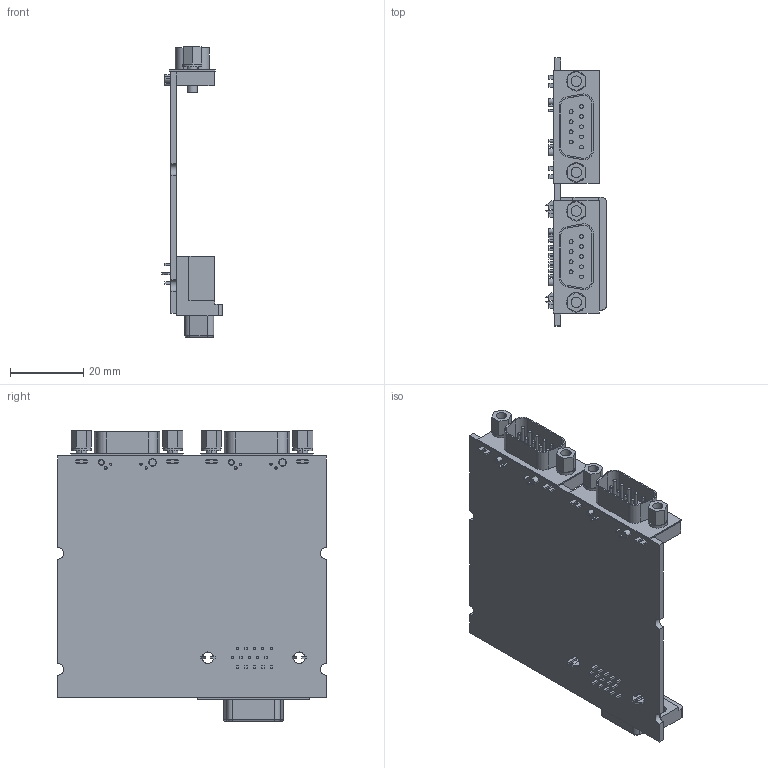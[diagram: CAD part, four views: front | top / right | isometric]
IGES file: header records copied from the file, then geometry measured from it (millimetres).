
Start section:  PTC IGES file: cu_cca_sbrio_2x-db9.igs
Global section: file name: cu_cca_sbrio_2x-db9.igs; native system: Pro/ENGINEER by Parametric Technology Corporation; preprocessor: 2006510; author: talbott; organization: Unknown; date: 20100806.093246; units: inch
Bounding box: 16.61 x 73.38 x 79.63 mm (x, y, z)
Surface area: 16553.3 mm2 (no closed solid volume)
Topology: 0 solids, 0 shells, 654 faces, 3020 edges, 3020 vertices
Faces by surface type: bspline 390, revolution 264
